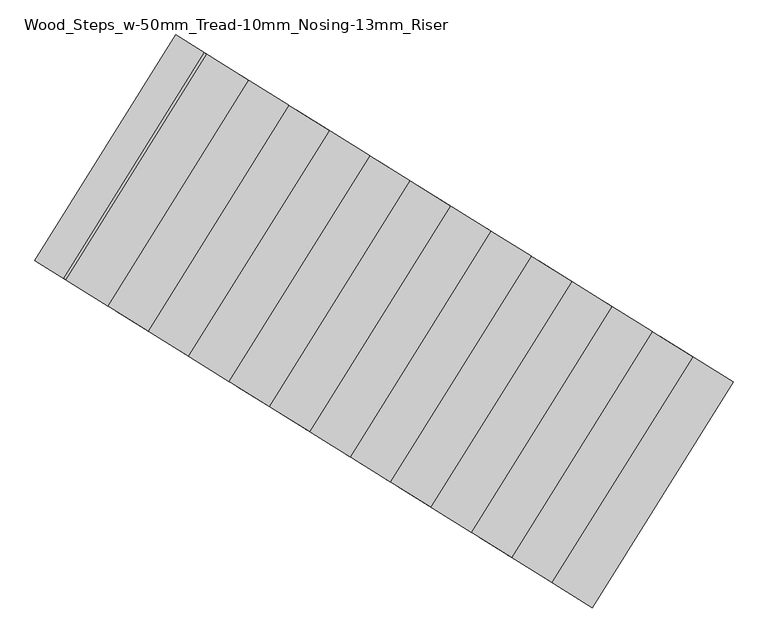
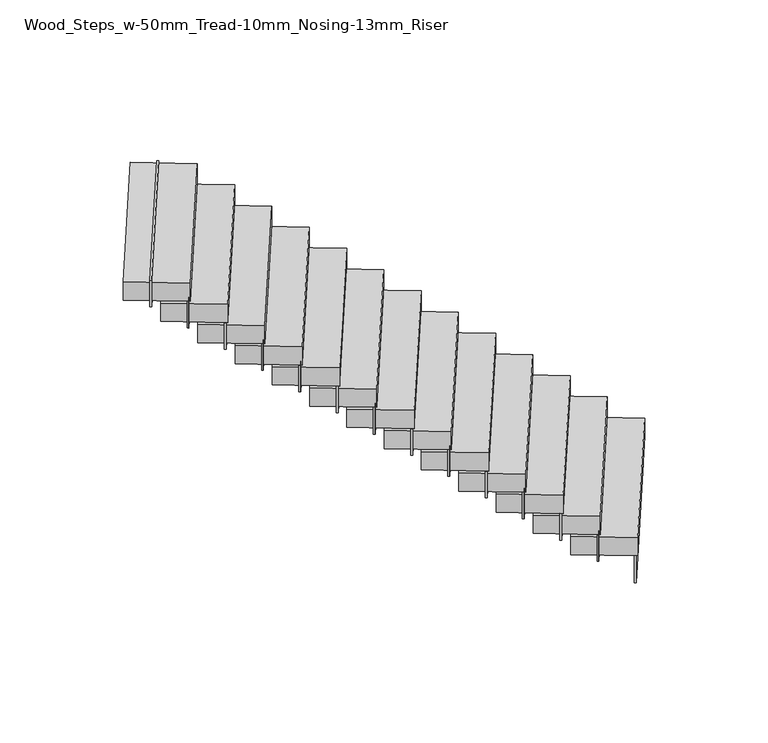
"""IFC4 building model written with IfcOpenShell, lengths in millimetres: stair flight geometry, Wood_Steps_w-50mm_Tread-10mm_Nosing-13mm_Riser."""

from ifc_helpers import new_model, si_unit, frame, origin, place, context, project, spatial, polyline, outline, extrude, source, transform, mapped, element, save


def wood_steps_w_50mm_tread_10mm_nosing_13mm_riser_ab96eb21(model_context):
    return source(origin(), model_context, "Body", "SweptSolid", [
        extrude(outline(polyline([(18115.6695755, 11392.0061652), (18126.2791976, 11385.3966328), (17387.2118388, 10199.0456399), (17376.6022167, 10205.6551724), (18115.6695755, 11392.0061652)])), frame((0.0, 0.0, 8933.8709677), z_axis=(0.0, 0.0, 1.0), x_axis=(1.0, 0.0, 0.0)), (0.0, 0.0, 1.0), 217.7419355),
        extrude(outline(polyline([(17903.4771337, 11524.1968141), (17914.0867558, 11517.5872816), (17175.019397, 10331.2362888), (17164.4097749, 10337.8458212), (17903.4771337, 11524.1968141)])), frame((0.0, 0.0, 9101.6129032), z_axis=(0.0, 0.0, 1.0), x_axis=(1.0, 0.0, 0.0)), (0.0, 0.0, 1.0), 217.7419355),
        extrude(outline(polyline([(17691.2846919, 11656.3874629), (17701.894314, 11649.7779305), (16962.8269552, 10463.4269377), (16952.2173331, 10470.0364701), (17691.2846919, 11656.3874629)])), frame((0.0, 0.0, 9269.3548387), z_axis=(0.0, 0.0, 1.0), x_axis=(1.0, 0.0, 0.0)), (0.0, 0.0, 1.0), 217.7419355),
        extrude(outline(polyline([(17479.0922502, 11788.5781118), (17489.7018722, 11781.9685794), (16750.6345134, 10595.6175865), (16740.0248913, 10602.227119), (17479.0922502, 11788.5781118)])), frame((0.0, 0.0, 9437.0967742), z_axis=(0.0, 0.0, 1.0), x_axis=(1.0, 0.0, 0.0)), (0.0, 0.0, 1.0), 217.7419355),
        extrude(outline(polyline([(17266.8998084, 11920.7687607), (17277.5094305, 11914.1592282), (16538.4420716, 10727.8082354), (16527.8324495, 10734.4177678), (17266.8998084, 11920.7687607)])), frame((0.0, 0.0, 9604.8387097), z_axis=(0.0, 0.0, 1.0), x_axis=(1.0, 0.0, 0.0)), (0.0, 0.0, 1.0), 217.7419355),
        extrude(outline(polyline([(17054.7073666, 12052.9594095), (17065.3169887, 12046.3498771), (16326.2496298, 10859.9988842), (16315.6400077, 10866.6084167), (17054.7073666, 12052.9594095)])), frame((0.0, 0.0, 9772.5806452), z_axis=(0.0, 0.0, 1.0), x_axis=(1.0, 0.0, 0.0)), (0.0, 0.0, 1.0), 217.7419355),
        extrude(outline(polyline([(16842.5149248, 12185.1500584), (16853.1245469, 12178.5405259), (16114.057188, 10992.1895331), (16103.4475659, 10998.7990655), (16842.5149248, 12185.1500584)])), frame((0.0, 0.0, 9940.3225806), z_axis=(0.0, 0.0, 1.0), x_axis=(1.0, 0.0, 0.0)), (0.0, 0.0, 1.0), 217.7419355),
        extrude(outline(polyline([(16630.322483, 12317.3407072), (16640.9321051, 12310.7311748), (15901.8647462, 11124.380182), (15891.2551241, 11130.9897144), (16630.322483, 12317.3407072)])), frame((0.0, 0.0, 10108.0645161), z_axis=(0.0, 0.0, 1.0), x_axis=(1.0, 0.0, 0.0)), (0.0, 0.0, 1.0), 217.7419355),
        extrude(outline(polyline([(16418.1300412, 12449.5313561), (16428.7396633, 12442.9218237), (15689.6723044, 11256.5708308), (15679.0626824, 11263.1803633), (16418.1300412, 12449.5313561)])), frame((0.0, 0.0, 10275.8064516), z_axis=(0.0, 0.0, 1.0), x_axis=(1.0, 0.0, 0.0)), (0.0, 0.0, 1.0), 217.7419355),
        extrude(outline(polyline([(16205.9375994, 12581.722005), (16216.5472215, 12575.1124725), (15477.4798627, 11388.7614797), (15466.8702406, 11395.3710121), (16205.9375994, 12581.722005)])), frame((0.0, 0.0, 10443.5483871), z_axis=(0.0, 0.0, 1.0), x_axis=(1.0, 0.0, 0.0)), (0.0, 0.0, 1.0), 217.7419355),
        extrude(outline(polyline([(15993.7451576, 12713.9126538), (16004.3547797, 12707.3031214), (15265.2874209, 11520.9521285), (15254.6777988, 11527.561661), (15993.7451576, 12713.9126538)])), frame((0.0, 0.0, 10611.2903226), z_axis=(0.0, 0.0, 1.0), x_axis=(1.0, 0.0, 0.0)), (0.0, 0.0, 1.0), 217.7419355),
        extrude(outline(polyline([(15781.5527158, 12846.1033027), (15792.1623379, 12839.4937702), (15053.0949791, 11653.1427774), (15042.485357, 11659.7523098), (15781.5527158, 12846.1033027)])), frame((0.0, 0.0, 10779.0322581), z_axis=(0.0, 0.0, 1.0), x_axis=(1.0, 0.0, 0.0)), (0.0, 0.0, 1.0), 217.7419355),
        extrude(outline(polyline([(15569.360274, 12978.2939515), (15579.9698961, 12971.6844191), (14840.9025373, 11785.3334262), (14830.2929152, 11791.9429587), (15569.360274, 12978.2939515)])), frame((0.0, 0.0, 10946.7741935), z_axis=(0.0, 0.0, 1.0), x_axis=(1.0, 0.0, 0.0)), (0.0, 0.0, 1.0), 217.7419355),
        extrude(outline(polyline([(15357.1678322, 13110.4846004), (15367.7774543, 13103.875068), (14628.7100955, 11917.5240751), (14618.1004734, 11924.1336076), (15357.1678322, 13110.4846004)])), frame((0.0, 0.0, 11114.516129), z_axis=(0.0, 0.0, 1.0), x_axis=(1.0, 0.0, 0.0)), (0.0, 0.0, 1.0), 217.7419355),
        extrude(outline(polyline([(17752.8205001, 11618.0521748), (18134.7668953, 11380.1090068), (17395.6995365, 10193.758014), (17013.7531412, 10431.7011819), (17752.8205001, 11618.0521748)])), frame((0.0, 0.0, 9151.6129032), z_axis=(0.0, 0.0, 1.0), x_axis=(1.0, 0.0, 0.0)), (0.0, 0.0, 1.0), 150.0),
        extrude(outline(polyline([(17540.6280583, 11750.2428236), (17922.5744535, 11512.2996557), (17183.5070947, 10325.9486628), (16801.5606994, 10563.8918308), (17540.6280583, 11750.2428236)])), frame((0.0, 0.0, 9319.3548387), z_axis=(0.0, 0.0, 1.0), x_axis=(1.0, 0.0, 0.0)), (0.0, 0.0, 1.0), 150.0),
        extrude(outline(polyline([(17328.4356165, 11882.4334725), (17710.3820117, 11644.4903046), (16971.3146529, 10458.1393117), (16589.3682576, 10696.0824796), (17328.4356165, 11882.4334725)])), frame((0.0, 0.0, 9487.0967742), z_axis=(0.0, 0.0, 1.0), x_axis=(1.0, 0.0, 0.0)), (0.0, 0.0, 1.0), 150.0),
        extrude(outline(polyline([(17116.2431747, 12014.6241214), (17498.1895699, 11776.6809534), (16759.1222111, 10590.3299606), (16377.1758159, 10828.2731285), (17116.2431747, 12014.6241214)])), frame((0.0, 0.0, 9654.8387097), z_axis=(0.0, 0.0, 1.0), x_axis=(1.0, 0.0, 0.0)), (0.0, 0.0, 1.0), 150.0),
        extrude(outline(polyline([(16904.0507329, 12146.8147702), (17285.9971281, 11908.8716023), (16546.9297693, 10722.5206094), (16164.9833741, 10960.4637774), (16904.0507329, 12146.8147702)])), frame((0.0, 0.0, 9822.5806452), z_axis=(0.0, 0.0, 1.0), x_axis=(1.0, 0.0, 0.0)), (0.0, 0.0, 1.0), 150.0),
        extrude(outline(polyline([(16691.8582911, 12279.0054191), (17073.8046863, 12041.0622511), (16334.7373275, 10854.7112583), (15952.7909323, 11092.6544262), (16691.8582911, 12279.0054191)])), frame((0.0, 0.0, 9990.3225806), z_axis=(0.0, 0.0, 1.0), x_axis=(1.0, 0.0, 0.0)), (0.0, 0.0, 1.0), 150.0),
        extrude(outline(polyline([(16479.6658493, 12411.1960679), (16861.6122445, 12173.2529), (16122.5448857, 10986.9019071), (15740.5984905, 11224.8450751), (16479.6658493, 12411.1960679)])), frame((0.0, 0.0, 10158.0645161), z_axis=(0.0, 0.0, 1.0), x_axis=(1.0, 0.0, 0.0)), (0.0, 0.0, 1.0), 150.0),
        extrude(outline(polyline([(16267.4734075, 12543.3867168), (16649.4198027, 12305.4435489), (15910.3524439, 11119.092556), (15528.4060487, 11357.0357239), (16267.4734075, 12543.3867168)])), frame((0.0, 0.0, 10325.8064516), z_axis=(0.0, 0.0, 1.0), x_axis=(1.0, 0.0, 0.0)), (0.0, 0.0, 1.0), 150.0),
        extrude(outline(polyline([(16055.2809657, 12675.5773657), (16437.227361, 12437.6341977), (15698.1600021, 11251.2832049), (15316.2136069, 11489.2263728), (16055.2809657, 12675.5773657)])), frame((0.0, 0.0, 10493.5483871), z_axis=(0.0, 0.0, 1.0), x_axis=(1.0, 0.0, 0.0)), (0.0, 0.0, 1.0), 150.0),
        extrude(outline(polyline([(15843.0885239, 12807.7680145), (16225.0349192, 12569.8248466), (15485.9675603, 11383.4738537), (15104.0211651, 11621.4170217), (15843.0885239, 12807.7680145)])), frame((0.0, 0.0, 10661.2903226), z_axis=(0.0, 0.0, 1.0), x_axis=(1.0, 0.0, 0.0)), (0.0, 0.0, 1.0), 150.0),
        extrude(outline(polyline([(15630.8960821, 12939.9586634), (16012.8424774, 12702.0154954), (15273.7751185, 11515.6645026), (14891.8287233, 11753.6076705), (15630.8960821, 12939.9586634)])), frame((0.0, 0.0, 10829.0322581), z_axis=(0.0, 0.0, 1.0), x_axis=(1.0, 0.0, 0.0)), (0.0, 0.0, 1.0), 150.0),
        extrude(outline(polyline([(15418.7036403, 13072.1493122), (15800.6500356, 12834.2061443), (15061.5826767, 11647.8551514), (14679.6362815, 11885.7983194), (15418.7036403, 13072.1493122)])), frame((0.0, 0.0, 10996.7741935), z_axis=(0.0, 0.0, 1.0), x_axis=(1.0, 0.0, 0.0)), (0.0, 0.0, 1.0), 150.0),
        extrude(outline(polyline([(15206.5111986, 13204.3399611), (15588.4575938, 12966.3967931), (14849.3902349, 11780.0458003), (14467.4438397, 12017.9889682), (15206.5111986, 13204.3399611)])), frame((0.0, 0.0, 11164.516129), z_axis=(0.0, 0.0, 1.0), x_axis=(1.0, 0.0, 0.0)), (0.0, 0.0, 1.0), 150.0),
    ])


if __name__ == "__main__":
    model = new_model("IFC4")
    model_context = context("Model", 3, world=origin())
    ifc_project = project(units=[si_unit("LENGTHUNIT", "METRE", prefix="MILLI")], contexts=[model_context])
    site = spatial("IfcSite", under=ifc_project)
    building = spatial("IfcBuilding", under=site)
    placement = place(None, origin())
    wood_steps_w_50mm_tread_10mm_nosing_13mm_riser_shape = wood_steps_w_50mm_tread_10mm_nosing_13mm_riser_ab96eb21(model_context)
    element("IfcStairFlight", 1, ObjectType="Wood_Steps_w-50mm_Tread-10mm_Nosing-13mm_Riser", at=placement, inside=building, context=model_context, shape_type="MappedRepresentation", body=[
        mapped(wood_steps_w_50mm_tread_10mm_nosing_13mm_riser_shape, transform((0.0, 0.0, 0.0), x_axis=(1.0, 0.0, 0.0), y_axis=(0.0, 1.0, 0.0), z_axis=(0.0, 0.0, 1.0))),
    ])
    save(model, "model.ifc")
